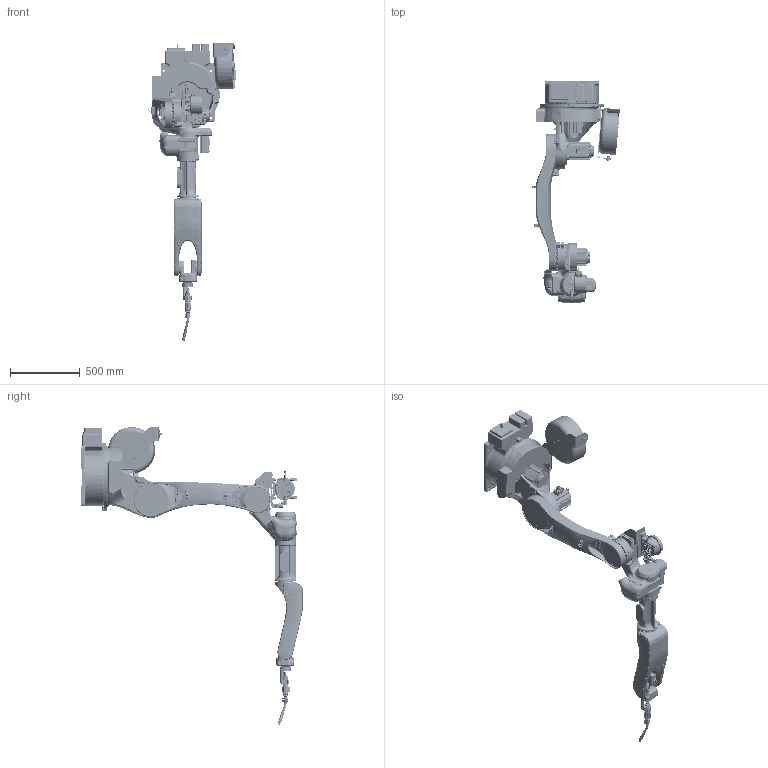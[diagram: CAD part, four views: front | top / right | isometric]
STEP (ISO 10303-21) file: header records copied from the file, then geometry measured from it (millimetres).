
FILE_DESCRIPTION (( 'STEP AP214' ), '1' );
FILE_NAME ('RH20-06 爾諉唳E(俋楷).STEP', '2021-03-25T11:45:28', ( '' ), ( '' ), 'SwSTEP 2.0', 'SolidWorks 2016', '' );
FILE_SCHEMA (( 'AUTOMOTIVE_DESIGN' ));
Length unit declared in the file: millimetre
Products named in the file (11): CR140600E 勂窒郪璃 shell; CR2000 shell 晊酗裝; CR1800 shell 菁釱; RH20-06 爾諉唳E(俋楷); CR1400 shell  焊丝盘组件全; CR1800 shell 紵窒; CR1800 shell 湮旋; CR1800 shell 殈窒 ; CR1800 shell  冞佪儂郪璃; 笢諾350ァ濮爾Л; CR1800 shell 苤旋
Assembly tree (10 placements, depth 2):
  RH20-06 爾諉唳E(俋楷)
    CR1800 shell 殈窒 
    CR1800 shell 菁釱
    CR1800 shell 湮旋
    CR1800 shell 紵窒
    CR1800 shell 苤旋
    CR2000 shell 晊酗裝
    CR1400 shell  焊丝盘组件全
    CR1800 shell  冞佪儂郪璃
    笢諾350ァ濮爾Л
    CR140600E 勂窒郪璃 shell
Bounding box: 626.68 x 1585 x 2128.86 mm (x, y, z)
Surface area: 5378098.3 mm2 (no closed solid volume)
Topology: 0 solids, 339 shells, 7213 faces, 22383 edges, 14895 vertices
Faces by surface type: cylinder 2545, plane 1988, bspline 1469, cone 602, torus 534, sphere 75
Entity records: 401746 total; most frequent: CARTESIAN_POINT 193287, ORIENTED_EDGE 37621, DIRECTION 36327, EDGE_CURVE 22149, VERTEX_POINT 14875, AXIS2_PLACEMENT_3D 13937, LINE 8453, VECTOR 8453
